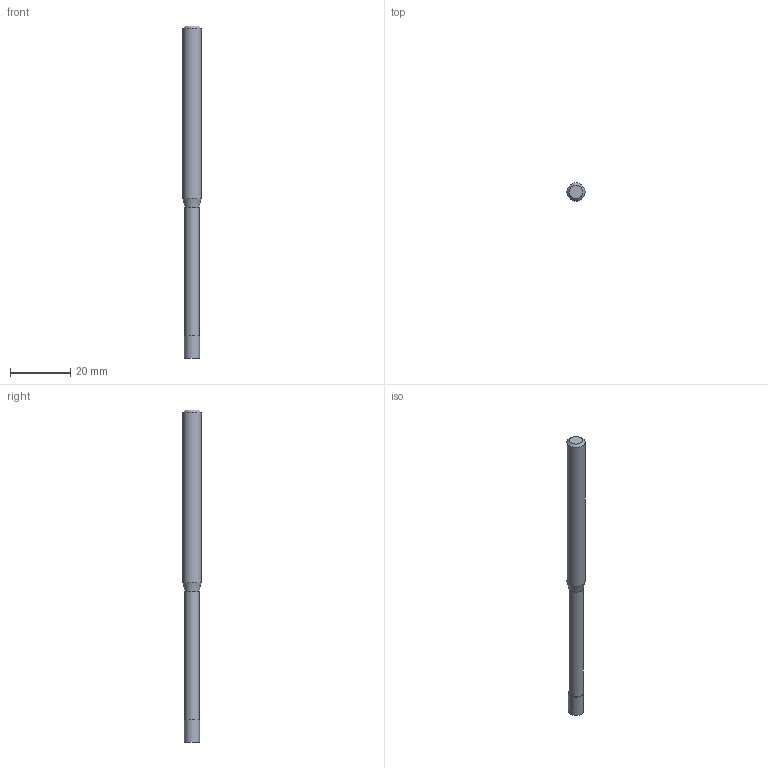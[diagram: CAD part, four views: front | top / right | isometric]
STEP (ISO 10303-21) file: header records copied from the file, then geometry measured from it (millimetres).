
FILE_DESCRIPTION((''),'2;1');
FILE_NAME('C:\Users\nsx150\AppData\Local\Temp\Mastercam 2021\17T8Q8S9EB\TEMP.step','2021-04-21T14:29:04',(''),(''),'STEP Write','Mastercam 2021 ... CNC Software, Inc.','');
FILE_SCHEMA(('AUTOMOTIVE_DESIGN'));
Length unit declared in the file: millimetre
Products named in the file (1): None
Bounding box: 6 x 6 x 110 mm (x, y, z)
Volume: 2592.4 mm3; surface area: 1961.4 mm2
Topology: 2 solids, 2 shells, 9 faces, 12 edges, 7 vertices
Faces by surface type: plane 4, cylinder 3, cone 2
Full cylindrical faces by diameter (mm): 4.8 x1, 5 x1, 6 x1
Entity records: 211 total; most frequent: DIRECTION 36, CARTESIAN_POINT 25, AXIS2_PLACEMENT_3D 18, ORIENTED_EDGE 14, EDGE_LOOP 14, STYLED_ITEM 12, ADVANCED_FACE 9, FACE_BOUND 8
